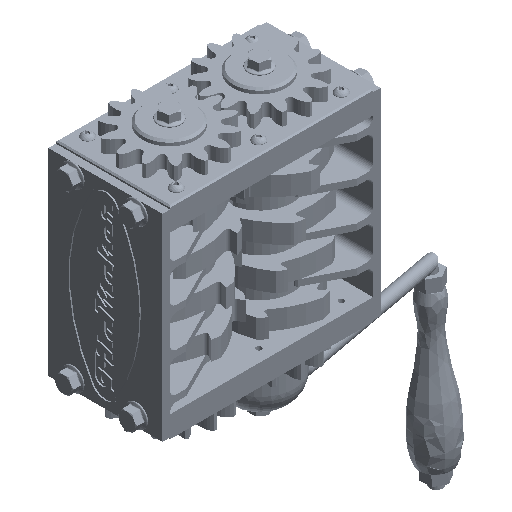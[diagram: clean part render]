
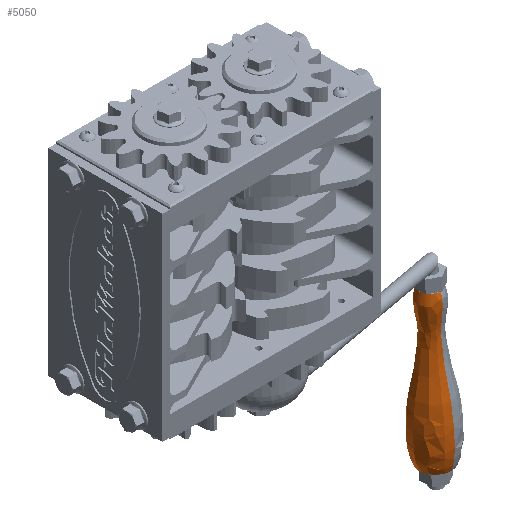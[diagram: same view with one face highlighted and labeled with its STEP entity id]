
A CAD part, isometric view. The second image highlights one B-rep face of the part: STEP entity #5050.
In plain terms, the highlighted free-form (B-spline) face has degree [3, 3] with [10, 4] control points.
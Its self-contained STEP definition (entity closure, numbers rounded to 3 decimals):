
#2173 = CARTESIAN_POINT ( 'NONE',  ( -5.099, -12.606, -25.211 ) ) ;
#2175 = CARTESIAN_POINT ( 'NONE',  ( -5.099, -12.606, 0. ) ) ;
#2177 = CARTESIAN_POINT ( 'NONE',  ( -5.099, 12.606, -25.211 ) ) ;
#2178 = CARTESIAN_POINT ( 'NONE',  ( -5.099, 12.606, 0. ) ) ;
#2179 = CARTESIAN_POINT ( 'NONE',  ( -13.392, -16.645, 0. ) ) ;
#2180 = CARTESIAN_POINT ( 'NONE',  ( -13.392, -16.645, -33.29 ) ) ;
#2181 = CARTESIAN_POINT ( 'NONE',  ( -13.392, 16.645, -33.29 ) ) ;
#2182 = CARTESIAN_POINT ( 'NONE',  ( -13.392, 16.645, 0. ) ) ;
#2183 = CARTESIAN_POINT ( 'NONE',  ( -29.35, -17.264, 0. ) ) ;
#2184 = CARTESIAN_POINT ( 'NONE',  ( -29.35, -17.264, -34.528 ) ) ;
#2185 = CARTESIAN_POINT ( 'NONE',  ( -29.35, 17.264, -34.528 ) ) ;
#2186 = CARTESIAN_POINT ( 'NONE',  ( -29.35, 17.264, 0. ) ) ;
#2187 = CARTESIAN_POINT ( 'NONE',  ( -55.724, -13.999, 0. ) ) ;
#2188 = CARTESIAN_POINT ( 'NONE',  ( -55.724, -13.999, -27.998 ) ) ;
#2189 = CARTESIAN_POINT ( 'NONE',  ( -55.724, 13.999, -27.998 ) ) ;
#2190 = CARTESIAN_POINT ( 'NONE',  ( -55.724, 13.999, 0. ) ) ;
#2191 = CARTESIAN_POINT ( 'NONE',  ( -66.584, -10.838, 0. ) ) ;
#2192 = CARTESIAN_POINT ( 'NONE',  ( -66.584, -10.838, -21.676 ) ) ;
#2193 = CARTESIAN_POINT ( 'NONE',  ( -66.584, 10.838, -21.676 ) ) ;
#2194 = CARTESIAN_POINT ( 'NONE',  ( -66.584, 10.838, 0. ) ) ;
#2195 = CARTESIAN_POINT ( 'NONE',  ( -92.507, -7.288, 0. ) ) ;
#2196 = CARTESIAN_POINT ( 'NONE',  ( -92.507, -7.288, -14.575 ) ) ;
#2197 = CARTESIAN_POINT ( 'NONE',  ( -92.507, 7.288, -14.575 ) ) ;
#2198 = CARTESIAN_POINT ( 'NONE',  ( -92.507, 7.288, 0. ) ) ;
#2199 = CARTESIAN_POINT ( 'NONE',  ( -99.502, -7.684, 0. ) ) ;
#2200 = CARTESIAN_POINT ( 'NONE',  ( -99.502, -7.684, -15.369 ) ) ;
#2201 = CARTESIAN_POINT ( 'NONE',  ( -99.502, 7.684, -15.369 ) ) ;
#2202 = CARTESIAN_POINT ( 'NONE',  ( -99.502, 7.684, 0. ) ) ;
#2203 = CARTESIAN_POINT ( 'NONE',  ( -110.629, -9.95, 0. ) ) ;
#2204 = CARTESIAN_POINT ( 'NONE',  ( -110.629, -9.95, -19.899 ) ) ;
#2205 = CARTESIAN_POINT ( 'NONE',  ( -110.629, 9.95, -19.899 ) ) ;
#2206 = CARTESIAN_POINT ( 'NONE',  ( -110.629, 9.95, 0. ) ) ;
#2207 = CARTESIAN_POINT ( 'NONE',  ( -121.329, -10.657, 0. ) ) ;
#2208 = CARTESIAN_POINT ( 'NONE',  ( -121.329, -10.657, -21.315 ) ) ;
#2209 = CARTESIAN_POINT ( 'NONE',  ( -121.329, 10.657, -21.315 ) ) ;
#2210 = CARTESIAN_POINT ( 'NONE',  ( -121.329, 10.657, 0. ) ) ;
#2211 = CARTESIAN_POINT ( 'NONE',  ( -124.58, -8.344, 0. ) ) ;
#2212 = CARTESIAN_POINT ( 'NONE',  ( -124.58, -8.344, -16.689 ) ) ;
#2213 = CARTESIAN_POINT ( 'NONE',  ( -124.58, 8.344, -16.689 ) ) ;
#2214 = CARTESIAN_POINT ( 'NONE',  ( -124.58, 8.344, 0. ) ) ;
#5050 = ADVANCED_FACE ( 'NONE', ( #48313 ), #5453, .T. ) ;
#5453 =( BOUNDED_SURFACE ( )  B_SPLINE_SURFACE ( 3, 3, ( 
 ( #2175, #2173, #2177, #2178 ),
 ( #2179, #2180, #2181, #2182 ),
 ( #2183, #2184, #2185, #2186 ),
 ( #2187, #2188, #2189, #2190 ),
 ( #2191, #2192, #2193, #2194 ),
 ( #2195, #2196, #2197, #2198 ),
 ( #2199, #2200, #2201, #2202 ),
 ( #2203, #2204, #2205, #2206 ),
 ( #2207, #2208, #2209, #2210 ),
 ( #2211, #2212, #2213, #2214 ) ),
 .UNSPECIFIED., .F., .F., .F. ) 
 B_SPLINE_SURFACE_WITH_KNOTS ( ( 4, 1, 1, 1, 1, 1, 1, 4 ),
 ( 4, 4 ),
 ( 0.091, 0.461, 0.525, 0.636, 0.728, 0.877, 0.9, 0.996 ),
 ( 0., 1. ),
 .UNSPECIFIED. ) 
 GEOMETRIC_REPRESENTATION_ITEM ( )  RATIONAL_B_SPLINE_SURFACE ( (
 ( 1., 0.333, 0.333, 1.),
 ( 1., 0.333, 0.333, 1.),
 ( 1., 0.333, 0.333, 1.),
 ( 1., 0.333, 0.333, 1.),
 ( 1., 0.333, 0.333, 1.),
 ( 1., 0.333, 0.333, 1.),
 ( 1., 0.333, 0.333, 1.),
 ( 1., 0.333, 0.333, 1.),
 ( 1., 0.333, 0.333, 1.),
 ( 1., 0.333, 0.333, 1.) ) ) 
 REPRESENTATION_ITEM ( '' )  SURFACE ( )  );
#6529 = AXIS2_PLACEMENT_3D ( 'NONE', #32283, #32284, #32285 ) ;
#6531 = AXIS2_PLACEMENT_3D ( 'NONE', #32288, #32289, #32290 ) ;
#27610 = CIRCLE ( 'NONE', #6531, 12.606 ) ;
#27612 = CIRCLE ( 'NONE', #6529, 8.344 ) ;
#28183 = EDGE_CURVE ( 'NONE', #32776, #32832, #27612, .T. ) ;
#28184 = EDGE_CURVE ( 'NONE', #32757, #32780, #27610, .T. ) ;
#28185 = EDGE_CURVE ( 'NONE', #32757, #32832, #33599, .T. ) ;
#28186 = EDGE_CURVE ( 'NONE', #32780, #32776, #33600, .T. ) ;
#30522 = ORIENTED_EDGE ( 'NONE', *, *, #28186, .T. ) ;
#30524 = ORIENTED_EDGE ( 'NONE', *, *, #28184, .T. ) ;
#30525 = ORIENTED_EDGE ( 'NONE', *, *, #28183, .T. ) ;
#30527 = ORIENTED_EDGE ( 'NONE', *, *, #28185, .F. ) ;
#32275 = CARTESIAN_POINT ( 'NONE',  ( -13.392, -16.645, 0. ) ) ;
#32282 = CARTESIAN_POINT ( 'NONE',  ( -29.35, -17.264, 0. ) ) ;
#32283 = CARTESIAN_POINT ( 'NONE',  ( -124.58, 0., 0. ) ) ;
#32284 = DIRECTION ( 'NONE',  ( 1., 0., 0. ) ) ;
#32285 = DIRECTION ( 'NONE',  ( 0., 1., 0. ) ) ;
#32286 = CARTESIAN_POINT ( 'NONE',  ( -13.392, 16.645, 0. ) ) ;
#32287 = CARTESIAN_POINT ( 'NONE',  ( -29.35, 17.264, 0. ) ) ;
#32288 = CARTESIAN_POINT ( 'NONE',  ( -5.099, 0., 0. ) ) ;
#32289 = DIRECTION ( 'NONE',  ( -1., 0., 0. ) ) ;
#32290 = DIRECTION ( 'NONE',  ( 0., 1., 0. ) ) ;
#32291 = CARTESIAN_POINT ( 'NONE',  ( -5.099, 12.606, 0. ) ) ;
#32292 = CARTESIAN_POINT ( 'NONE',  ( -55.724, 13.999, 0. ) ) ;
#32293 = CARTESIAN_POINT ( 'NONE',  ( -66.584, 10.838, 0. ) ) ;
#32294 = CARTESIAN_POINT ( 'NONE',  ( -92.507, 7.288, 0. ) ) ;
#32295 = CARTESIAN_POINT ( 'NONE',  ( -99.502, 7.684, 0. ) ) ;
#32296 = CARTESIAN_POINT ( 'NONE',  ( -110.629, 9.95, 0. ) ) ;
#32297 = CARTESIAN_POINT ( 'NONE',  ( -121.329, 10.657, 0. ) ) ;
#32298 = CARTESIAN_POINT ( 'NONE',  ( -124.58, 8.344, 0. ) ) ;
#32300 = CARTESIAN_POINT ( 'NONE',  ( -5.099, -12.606, 0. ) ) ;
#32302 = CARTESIAN_POINT ( 'NONE',  ( -55.724, -13.999, 0. ) ) ;
#32303 = CARTESIAN_POINT ( 'NONE',  ( -66.584, -10.838, 0. ) ) ;
#32304 = CARTESIAN_POINT ( 'NONE',  ( -92.507, -7.288, 0. ) ) ;
#32305 = CARTESIAN_POINT ( 'NONE',  ( -99.502, -7.684, 0. ) ) ;
#32306 = CARTESIAN_POINT ( 'NONE',  ( -110.629, -9.95, 0. ) ) ;
#32307 = CARTESIAN_POINT ( 'NONE',  ( -121.329, -10.657, 0. ) ) ;
#32308 = CARTESIAN_POINT ( 'NONE',  ( -124.58, -8.344, 0. ) ) ;
#32757 = VERTEX_POINT ( 'NONE', #42442 ) ;
#32776 = VERTEX_POINT ( 'NONE', #42461 ) ;
#32780 = VERTEX_POINT ( 'NONE', #42465 ) ;
#32832 = VERTEX_POINT ( 'NONE', #42517 ) ;
#33394 = EDGE_LOOP ( 'NONE', ( #30524, #30522, #30525, #30527 ) ) ;
#33599 = B_SPLINE_CURVE_WITH_KNOTS ( 'NONE', 3,
 ( #32291, #32286, #32287, #32292, #32293, #32294, #32295, #32296, #32297, #32298 ),
 .UNSPECIFIED., .F., .F.,
 ( 4, 1, 1, 1, 1, 1, 1, 4 ),
 ( 0.091, 0.461, 0.525, 0.636, 0.728, 0.877, 0.9, 0.996 ),
 .UNSPECIFIED. ) ;
#33600 = B_SPLINE_CURVE_WITH_KNOTS ( 'NONE', 3,
 ( #32300, #32275, #32282, #32302, #32303, #32304, #32305, #32306, #32307, #32308 ),
 .UNSPECIFIED., .F., .F.,
 ( 4, 1, 1, 1, 1, 1, 1, 4 ),
 ( 0.091, 0.461, 0.525, 0.636, 0.728, 0.877, 0.9, 0.996 ),
 .UNSPECIFIED. ) ;
#42442 = CARTESIAN_POINT ( 'NONE',  ( -5.099, 12.606, 0. ) ) ;
#42461 = CARTESIAN_POINT ( 'NONE',  ( -124.58, -8.344, 0. ) ) ;
#42465 = CARTESIAN_POINT ( 'NONE',  ( -5.099, -12.606, 0. ) ) ;
#42517 = CARTESIAN_POINT ( 'NONE',  ( -124.58, 8.344, 0. ) ) ;
#48313 = FACE_OUTER_BOUND ( 'NONE', #33394, .T. ) ;
